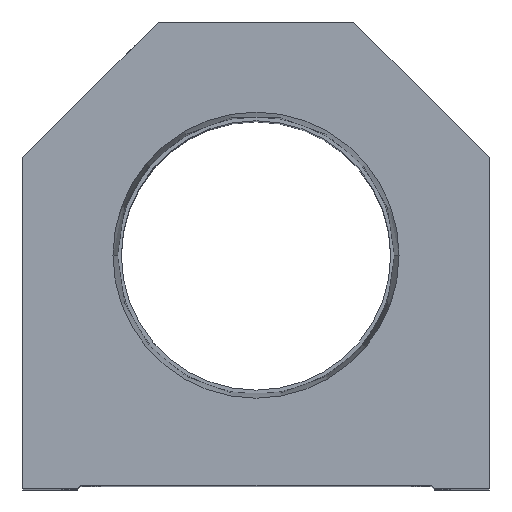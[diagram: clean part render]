
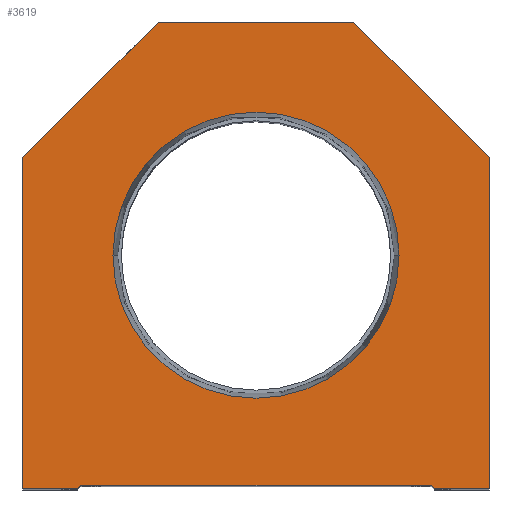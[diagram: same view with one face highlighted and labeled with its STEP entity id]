
A CAD part, top view. The second image highlights one B-rep face of the part: STEP entity #3619.
In plain terms, the highlighted planar face has unit normal (0, 0, 1).
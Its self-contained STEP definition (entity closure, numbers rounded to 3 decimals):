
#95 = CARTESIAN_POINT ( 'NONE',  ( -28.6, 0.5, 0. ) ) ;
#276 = CARTESIAN_POINT ( 'NONE',  ( 16., 76.2, 0. ) ) ;
#351 = LINE ( 'NONE', #95, #9106 ) ;
#504 = DIRECTION ( 'NONE',  ( 0., 0., 1. ) ) ;
#771 = EDGE_CURVE ( 'NONE', #1863, #13374, #12747, .T. ) ;
#773 = CIRCLE ( 'NONE', #4712, 23.374 ) ;
#917 = VECTOR ( 'NONE', #6052, 1000. ) ;
#1322 = CARTESIAN_POINT ( 'NONE',  ( -28.6, 0., 0. ) ) ;
#1588 = DIRECTION ( 'NONE',  ( 0., -1., 0. ) ) ;
#1597 = ORIENTED_EDGE ( 'NONE', *, *, #14748, .T. ) ;
#1603 = ORIENTED_EDGE ( 'NONE', *, *, #2682, .T. ) ;
#1863 = VERTEX_POINT ( 'NONE', #3845 ) ;
#2020 = CARTESIAN_POINT ( 'NONE',  ( 23.374, 38.1, 0. ) ) ;
#2133 = FACE_OUTER_BOUND ( 'NONE', #9903, .T. ) ;
#2278 = VERTEX_POINT ( 'NONE', #4221 ) ;
#2370 = AXIS2_PLACEMENT_3D ( 'NONE', #14738, #6522, #6704 ) ;
#2390 = DIRECTION ( 'NONE',  ( 0., 0., 1. ) ) ;
#2453 = ORIENTED_EDGE ( 'NONE', *, *, #3484, .F. ) ;
#2664 = LINE ( 'NONE', #1322, #11514 ) ;
#2682 = EDGE_CURVE ( 'NONE', #9635, #6154, #3643, .T. ) ;
#2705 = ORIENTED_EDGE ( 'NONE', *, *, #4400, .T. ) ;
#3142 = CARTESIAN_POINT ( 'NONE',  ( -14.55, 14.55, 0. ) ) ;
#3174 = ORIENTED_EDGE ( 'NONE', *, *, #11616, .T. ) ;
#3279 = EDGE_CURVE ( 'NONE', #6598, #2278, #13050, .T. ) ;
#3484 = EDGE_CURVE ( 'NONE', #15190, #17332, #9984, .T. ) ;
#3534 = FACE_BOUND ( 'NONE', #4269, .T. ) ;
#3619 = ADVANCED_FACE ( 'NONE', ( #3534, #2133 ), #10071, .T. ) ;
#3643 = LINE ( 'NONE', #17188, #15602 ) ;
#3845 = CARTESIAN_POINT ( 'NONE',  ( -16., 76.2, 0. ) ) ;
#3902 = ORIENTED_EDGE ( 'NONE', *, *, #10710, .T. ) ;
#4207 = VECTOR ( 'NONE', #1588, 1000. ) ;
#4221 = CARTESIAN_POINT ( 'NONE',  ( 29.1, 0., 0. ) ) ;
#4269 = EDGE_LOOP ( 'NONE', ( #2453, #13673 ) ) ;
#4400 = EDGE_CURVE ( 'NONE', #8158, #7786, #11143, .T. ) ;
#4467 = CARTESIAN_POINT ( 'NONE',  ( 38.1, 54.1, 0. ) ) ;
#4500 = VERTEX_POINT ( 'NONE', #9005 ) ;
#4712 = AXIS2_PLACEMENT_3D ( 'NONE', #11162, #504, #16668 ) ;
#4745 = VECTOR ( 'NONE', #4823, 1000. ) ;
#4748 = CARTESIAN_POINT ( 'NONE',  ( 16., 76.2, 0. ) ) ;
#4823 = DIRECTION ( 'NONE',  ( -0.707, 0.707, 0. ) ) ;
#4906 = LINE ( 'NONE', #6468, #4745 ) ;
#5007 = DIRECTION ( 'NONE',  ( 1., 0., 0. ) ) ;
#5850 = EDGE_CURVE ( 'NONE', #2278, #9635, #11758, .T. ) ;
#6052 = DIRECTION ( 'NONE',  ( -1., 0., 0. ) ) ;
#6138 = EDGE_CURVE ( 'NONE', #17332, #15190, #773, .T. ) ;
#6154 = VERTEX_POINT ( 'NONE', #4467 ) ;
#6189 = DIRECTION ( 'NONE',  ( 0., 1., 0. ) ) ;
#6251 = ORIENTED_EDGE ( 'NONE', *, *, #8587, .T. ) ;
#6468 = CARTESIAN_POINT ( 'NONE',  ( 38.1, 54.1, 0. ) ) ;
#6522 = DIRECTION ( 'NONE',  ( 0., 0., 1. ) ) ;
#6598 = VERTEX_POINT ( 'NONE', #15004 ) ;
#6704 = DIRECTION ( 'NONE',  ( 1., 0., 0. ) ) ;
#6845 = DIRECTION ( 'NONE',  ( 1., 0., 0. ) ) ;
#7492 = CARTESIAN_POINT ( 'NONE',  ( 0., 0., 0. ) ) ;
#7786 = VERTEX_POINT ( 'NONE', #14924 ) ;
#7849 = CARTESIAN_POINT ( 'NONE',  ( 38.1, 0., 0. ) ) ;
#8158 = VERTEX_POINT ( 'NONE', #16936 ) ;
#8341 = ORIENTED_EDGE ( 'NONE', *, *, #3279, .T. ) ;
#8587 = EDGE_CURVE ( 'NONE', #13374, #4500, #9530, .T. ) ;
#9005 = CARTESIAN_POINT ( 'NONE',  ( -38.1, 0., 0. ) ) ;
#9106 = VECTOR ( 'NONE', #6845, 1000. ) ;
#9356 = DIRECTION ( 'NONE',  ( 1., 0., 0. ) ) ;
#9530 = LINE ( 'NONE', #14905, #4207 ) ;
#9635 = VERTEX_POINT ( 'NONE', #7849 ) ;
#9903 = EDGE_LOOP ( 'NONE', ( #3174, #2705, #16318, #8341, #15175, #1603, #3902, #1597, #16560, #6251 ) ) ;
#9984 = CIRCLE ( 'NONE', #2370, 23.374 ) ;
#10071 = PLANE ( 'NONE',  #15633 ) ;
#10353 = DIRECTION ( 'NONE',  ( 0.707, -0.707, 0. ) ) ;
#10542 = CARTESIAN_POINT ( 'NONE',  ( 14.55, 14.55, 0. ) ) ;
#10547 = VERTEX_POINT ( 'NONE', #276 ) ;
#10710 = EDGE_CURVE ( 'NONE', #6154, #10547, #4906, .T. ) ;
#11143 = LINE ( 'NONE', #3142, #16965 ) ;
#11162 = CARTESIAN_POINT ( 'NONE',  ( 0., 38.1, 0. ) ) ;
#11432 = CARTESIAN_POINT ( 'NONE',  ( -23.374, 38.1, 0. ) ) ;
#11514 = VECTOR ( 'NONE', #9356, 1000. ) ;
#11616 = EDGE_CURVE ( 'NONE', #4500, #8158, #2664, .T. ) ;
#11758 = LINE ( 'NONE', #15902, #12906 ) ;
#12747 = LINE ( 'NONE', #14527, #15594 ) ;
#12906 = VECTOR ( 'NONE', #13463, 1000. ) ;
#13050 = LINE ( 'NONE', #10542, #14532 ) ;
#13374 = VERTEX_POINT ( 'NONE', #15641 ) ;
#13463 = DIRECTION ( 'NONE',  ( 1., 0., 0. ) ) ;
#13673 = ORIENTED_EDGE ( 'NONE', *, *, #6138, .F. ) ;
#14428 = LINE ( 'NONE', #4748, #917 ) ;
#14527 = CARTESIAN_POINT ( 'NONE',  ( -38.1, 54.1, 0. ) ) ;
#14532 = VECTOR ( 'NONE', #10353, 1000. ) ;
#14738 = CARTESIAN_POINT ( 'NONE',  ( 0., 38.1, 0. ) ) ;
#14748 = EDGE_CURVE ( 'NONE', #10547, #1863, #14428, .T. ) ;
#14905 = CARTESIAN_POINT ( 'NONE',  ( -38.1, 0., 0. ) ) ;
#14924 = CARTESIAN_POINT ( 'NONE',  ( -28.6, 0.5, 0. ) ) ;
#15004 = CARTESIAN_POINT ( 'NONE',  ( 28.6, 0.5, 0. ) ) ;
#15175 = ORIENTED_EDGE ( 'NONE', *, *, #5850, .T. ) ;
#15190 = VERTEX_POINT ( 'NONE', #2020 ) ;
#15385 = DIRECTION ( 'NONE',  ( 0.707, 0.707, 0. ) ) ;
#15594 = VECTOR ( 'NONE', #15776, 1000. ) ;
#15602 = VECTOR ( 'NONE', #6189, 1000. ) ;
#15633 = AXIS2_PLACEMENT_3D ( 'NONE', #7492, #2390, #5007 ) ;
#15641 = CARTESIAN_POINT ( 'NONE',  ( -38.1, 54.1, 0. ) ) ;
#15776 = DIRECTION ( 'NONE',  ( -0.707, -0.707, 0. ) ) ;
#15902 = CARTESIAN_POINT ( 'NONE',  ( 28.6, 0., 0. ) ) ;
#16318 = ORIENTED_EDGE ( 'NONE', *, *, #16592, .T. ) ;
#16560 = ORIENTED_EDGE ( 'NONE', *, *, #771, .T. ) ;
#16592 = EDGE_CURVE ( 'NONE', #7786, #6598, #351, .T. ) ;
#16668 = DIRECTION ( 'NONE',  ( 1., 0., 0. ) ) ;
#16936 = CARTESIAN_POINT ( 'NONE',  ( -29.1, 0., 0. ) ) ;
#16965 = VECTOR ( 'NONE', #15385, 1000. ) ;
#17188 = CARTESIAN_POINT ( 'NONE',  ( 38.1, 0., 0. ) ) ;
#17332 = VERTEX_POINT ( 'NONE', #11432 ) ;
